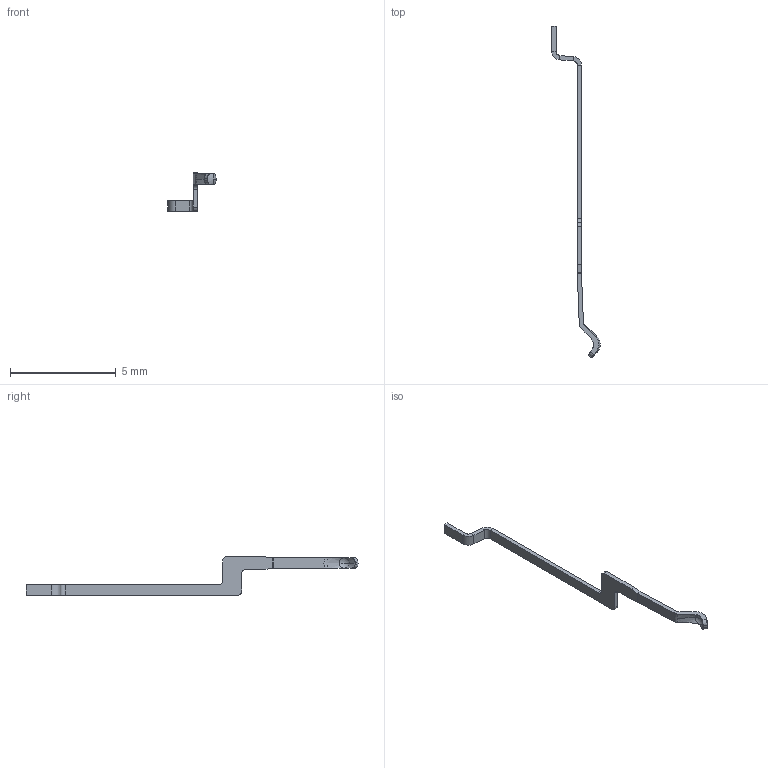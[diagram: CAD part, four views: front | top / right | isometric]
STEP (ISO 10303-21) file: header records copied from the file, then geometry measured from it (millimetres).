
FILE_DESCRIPTION((''),'2;1');
FILE_NAME('T-DSC20-200X00-2_1_PRT','2008-06-30T',('GRA'),(''),'PRO/ENGINEER BY PARAMETRIC TECHNOLOGY CORPORATION, 2006170','PRO/ENGINEER BY PARAMETRIC TECHNOLOGY CORPORATION, 2006170','');
FILE_SCHEMA(('CONFIG_CONTROL_DESIGN'));
Length unit declared in the file: millimetre
Products named in the file (1): T-DSC20-200X00-2_1_PRT
Bounding box: 2.28 x 15.69 x 1.82 mm (x, y, z)
Volume: 2 mm3; surface area: 27 mm2
Topology: 1 solids, 1 shells, 53 faces, 137 edges, 82 vertices
Faces by surface type: plane 32, cylinder 12, cone 4, sphere 4, torus 1
Entity records: 1703 total; most frequent: CARTESIAN_POINT 399, ORIENTED_EDGE 266, DIRECTION 262, EDGE_CURVE 133, AXIS2_PLACEMENT_3D 92, VERTEX_POINT 82, VECTOR 78, LINE 78
